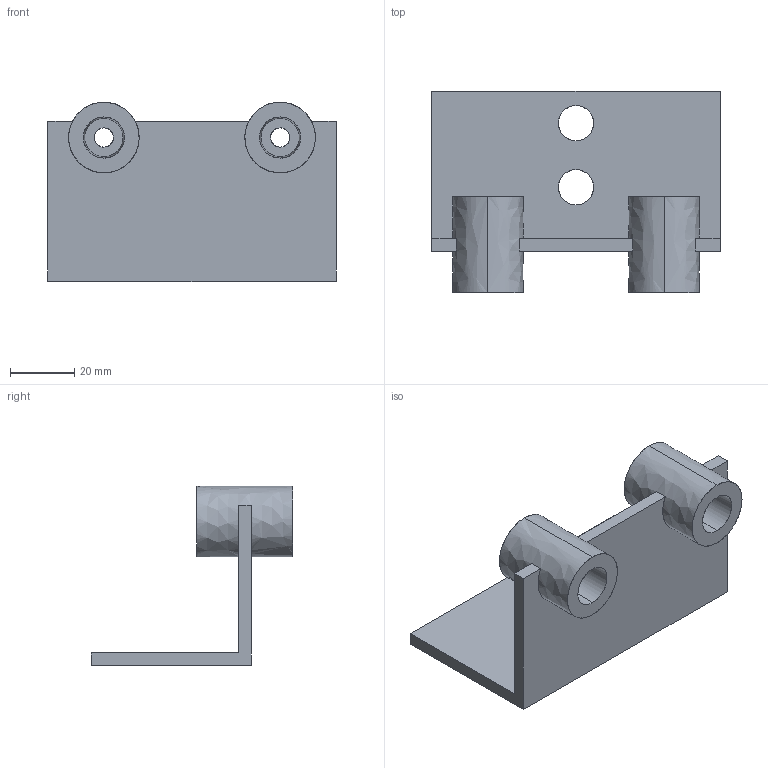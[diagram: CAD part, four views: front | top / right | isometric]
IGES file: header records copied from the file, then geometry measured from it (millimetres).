
Global section: file name: E:\UnigraphicsGraphicData\MISUMI_PRESS-PARTS\IGES\3d_tahk-b-1_01843_r00.igs; native system: NX V5.0; preprocessor: UGS NX IGES V5.0; author: MISUMI; date: 20110105.163347; units: millimetre
Bounding box: 90 x 63 x 56 mm (x, y, z)
Surface area: 24295.1 mm2 (no closed solid volume)
Topology: 0 solids, 0 shells, 40 faces, 324 edges, 324 vertices
Faces by surface type: bspline 40
